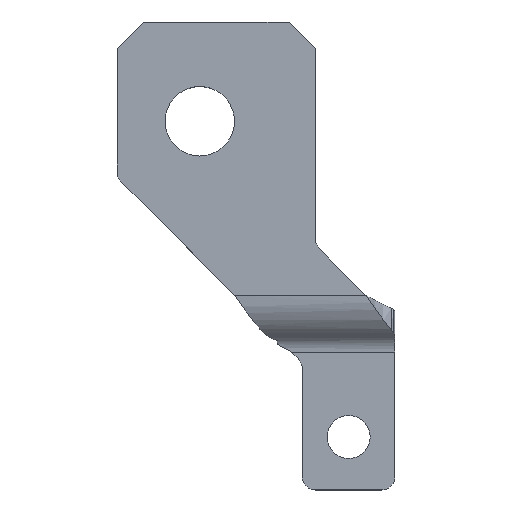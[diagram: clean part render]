
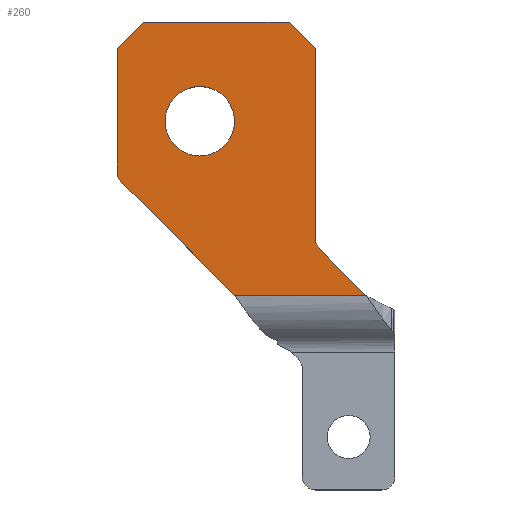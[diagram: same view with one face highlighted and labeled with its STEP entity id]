
A CAD part, top view. The second image highlights one B-rep face of the part: STEP entity #260.
In plain terms, the highlighted planar face has unit normal (0, 0, 1).
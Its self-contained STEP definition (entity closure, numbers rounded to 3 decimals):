
#10 = VERTEX_POINT ( 'NONE', #30 ) ;
#23 = CARTESIAN_POINT ( 'NONE',  ( 2., 38.184, 5. ) ) ;
#30 = CARTESIAN_POINT ( 'NONE',  ( -28., 49.213, 5. ) ) ;
#33 = CIRCLE ( 'NONE', #694, 2. ) ;
#44 = VERTEX_POINT ( 'NONE', #205 ) ;
#70 = CARTESIAN_POINT ( 'NONE',  ( -27.414, 47.799, 5. ) ) ;
#71 = EDGE_LOOP ( 'NONE', ( #488, #1100, #941, #348, #873, #668, #294, #644, #526, #1009 ) ) ;
#97 = DIRECTION ( 'NONE',  ( 0., -1., 0. ) ) ;
#107 = EDGE_CURVE ( 'NONE', #10, #1246, #33, .T. ) ;
#129 = CARTESIAN_POINT ( 'NONE',  ( -10.195, 30.58, 5. ) ) ;
#131 = LINE ( 'NONE', #596, #230 ) ;
#138 = AXIS2_PLACEMENT_3D ( 'NONE', #390, #1196, #675 ) ;
#153 = CARTESIAN_POINT ( 'NONE',  ( -28., 48.385, 5. ) ) ;
#193 = LINE ( 'NONE', #695, #347 ) ;
#199 = DIRECTION ( 'NONE',  ( 0., 0., -1. ) ) ;
#205 = CARTESIAN_POINT ( 'NONE',  ( -2., 71.884, 5. ) ) ;
#210 = ORIENTED_EDGE ( 'NONE', *, *, #758, .F. ) ;
#220 = DIRECTION ( 'NONE',  ( -1., 0., 0. ) ) ;
#230 = VECTOR ( 'NONE', #452, 1000. ) ;
#260 = ADVANCED_FACE ( 'NONE', ( #411, #1198 ), #521, .F. ) ;
#294 = ORIENTED_EDGE ( 'NONE', *, *, #769, .T. ) ;
#327 = CARTESIAN_POINT ( 'NONE',  ( -28., 71.884, 5. ) ) ;
#334 = DIRECTION ( 'NONE',  ( 0., 0., 1. ) ) ;
#338 = VERTEX_POINT ( 'NONE', #1202 ) ;
#347 = VECTOR ( 'NONE', #717, 1000. ) ;
#348 = ORIENTED_EDGE ( 'NONE', *, *, #503, .T. ) ;
#361 = EDGE_CURVE ( 'NONE', #1099, #338, #367, .T. ) ;
#362 = CARTESIAN_POINT ( 'NONE',  ( 2.586, 37.598, 5. ) ) ;
#367 = LINE ( 'NONE', #495, #746 ) ;
#379 = DIRECTION ( 'NONE',  ( 0.707, -0.707, 0. ) ) ;
#382 = EDGE_CURVE ( 'NONE', #998, #806, #193, .T. ) ;
#390 = CARTESIAN_POINT ( 'NONE',  ( -15.5, 56.884, 5. ) ) ;
#393 = EDGE_LOOP ( 'NONE', ( #210, #817 ) ) ;
#411 = FACE_BOUND ( 'NONE', #393, .T. ) ;
#426 = EDGE_CURVE ( 'NONE', #1034, #658, #1192, .T. ) ;
#440 = CARTESIAN_POINT ( 'NONE',  ( -26., 49.213, 5. ) ) ;
#444 = CARTESIAN_POINT ( 'NONE',  ( 0., 20.385, 5. ) ) ;
#452 = DIRECTION ( 'NONE',  ( -0.707, 0.707, 0. ) ) ;
#473 = EDGE_CURVE ( 'NONE', #338, #44, #131, .T. ) ;
#488 = ORIENTED_EDGE ( 'NONE', *, *, #1278, .T. ) ;
#495 = CARTESIAN_POINT ( 'NONE',  ( 2., 71.884, 5. ) ) ;
#503 = EDGE_CURVE ( 'NONE', #1033, #1099, #797, .T. ) ;
#521 = PLANE ( 'NONE',  #1191 ) ;
#526 = ORIENTED_EDGE ( 'NONE', *, *, #819, .T. ) ;
#527 = CARTESIAN_POINT ( 'NONE',  ( 2., 39.012, 5. ) ) ;
#576 = EDGE_CURVE ( 'NONE', #658, #1033, #1092, .T. ) ;
#596 = CARTESIAN_POINT ( 'NONE',  ( -2., 71.884, 5. ) ) ;
#605 = DIRECTION ( 'NONE',  ( 0., 0., 1. ) ) ;
#613 = VECTOR ( 'NONE', #379, 1000. ) ;
#618 = DIRECTION ( 'NONE',  ( 1., 0., 0. ) ) ;
#644 = ORIENTED_EDGE ( 'NONE', *, *, #382, .T. ) ;
#645 = CARTESIAN_POINT ( 'NONE',  ( -24., 71.884, 5. ) ) ;
#658 = VERTEX_POINT ( 'NONE', #801 ) ;
#668 = ORIENTED_EDGE ( 'NONE', *, *, #473, .T. ) ;
#675 = DIRECTION ( 'NONE',  ( 1., 0., 0. ) ) ;
#694 = AXIS2_PLACEMENT_3D ( 'NONE', #440, #334, #742 ) ;
#695 = CARTESIAN_POINT ( 'NONE',  ( -28., 67.884, 5. ) ) ;
#716 = LINE ( 'NONE', #327, #913 ) ;
#717 = DIRECTION ( 'NONE',  ( -0.707, -0.707, 0. ) ) ;
#742 = DIRECTION ( 'NONE',  ( -1., 0., 0. ) ) ;
#746 = VECTOR ( 'NONE', #1234, 1000. ) ;
#754 = LINE ( 'NONE', #153, #990 ) ;
#755 = DIRECTION ( 'NONE',  ( -0.707, 0.707, 0. ) ) ;
#758 = EDGE_CURVE ( 'NONE', #1052, #1228, #1248, .T. ) ;
#769 = EDGE_CURVE ( 'NONE', #44, #998, #716, .T. ) ;
#772 = CIRCLE ( 'NONE', #138, 5.25 ) ;
#778 = CARTESIAN_POINT ( 'NONE',  ( -28., 67.884, 5. ) ) ;
#782 = CARTESIAN_POINT ( 'NONE',  ( -15.5, 56.884, 5. ) ) ;
#797 = CIRCLE ( 'NONE', #898, 2. ) ;
#801 = CARTESIAN_POINT ( 'NONE',  ( 9.603, 30.58, 5. ) ) ;
#803 = CARTESIAN_POINT ( 'NONE',  ( 0., 70.7, 5. ) ) ;
#806 = VERTEX_POINT ( 'NONE', #778 ) ;
#817 = ORIENTED_EDGE ( 'NONE', *, *, #921, .F. ) ;
#819 = EDGE_CURVE ( 'NONE', #806, #10, #754, .T. ) ;
#821 = CARTESIAN_POINT ( 'NONE',  ( 0., 30.58, 5. ) ) ;
#873 = ORIENTED_EDGE ( 'NONE', *, *, #361, .T. ) ;
#884 = CARTESIAN_POINT ( 'NONE',  ( 4., 39.012, 5. ) ) ;
#886 = DIRECTION ( 'NONE',  ( 1., 0., 0. ) ) ;
#897 = LINE ( 'NONE', #444, #613 ) ;
#898 = AXIS2_PLACEMENT_3D ( 'NONE', #884, #945, #1174 ) ;
#913 = VECTOR ( 'NONE', #220, 1000. ) ;
#921 = EDGE_CURVE ( 'NONE', #1228, #1052, #772, .T. ) ;
#941 = ORIENTED_EDGE ( 'NONE', *, *, #576, .T. ) ;
#945 = DIRECTION ( 'NONE',  ( 0., 0., -1. ) ) ;
#990 = VECTOR ( 'NONE', #97, 1000. ) ;
#998 = VERTEX_POINT ( 'NONE', #645 ) ;
#1009 = ORIENTED_EDGE ( 'NONE', *, *, #107, .T. ) ;
#1033 = VERTEX_POINT ( 'NONE', #362 ) ;
#1034 = VERTEX_POINT ( 'NONE', #129 ) ;
#1052 = VERTEX_POINT ( 'NONE', #1118 ) ;
#1060 = VECTOR ( 'NONE', #618, 1000. ) ;
#1092 = LINE ( 'NONE', #23, #1167 ) ;
#1099 = VERTEX_POINT ( 'NONE', #527 ) ;
#1100 = ORIENTED_EDGE ( 'NONE', *, *, #426, .T. ) ;
#1118 = CARTESIAN_POINT ( 'NONE',  ( -20.75, 56.884, 5. ) ) ;
#1148 = AXIS2_PLACEMENT_3D ( 'NONE', #782, #605, #886 ) ;
#1167 = VECTOR ( 'NONE', #755, 1000. ) ;
#1174 = DIRECTION ( 'NONE',  ( -1., 0., 0. ) ) ;
#1180 = DIRECTION ( 'NONE',  ( -1., 0., 0. ) ) ;
#1191 = AXIS2_PLACEMENT_3D ( 'NONE', #803, #199, #1180 ) ;
#1192 = LINE ( 'NONE', #821, #1060 ) ;
#1196 = DIRECTION ( 'NONE',  ( 0., 0., 1. ) ) ;
#1198 = FACE_OUTER_BOUND ( 'NONE', #71, .T. ) ;
#1202 = CARTESIAN_POINT ( 'NONE',  ( 2., 67.884, 5. ) ) ;
#1225 = CARTESIAN_POINT ( 'NONE',  ( -10.25, 56.884, 5. ) ) ;
#1228 = VERTEX_POINT ( 'NONE', #1225 ) ;
#1234 = DIRECTION ( 'NONE',  ( 0., 1., 0. ) ) ;
#1246 = VERTEX_POINT ( 'NONE', #70 ) ;
#1248 = CIRCLE ( 'NONE', #1148, 5.25 ) ;
#1278 = EDGE_CURVE ( 'NONE', #1246, #1034, #897, .T. ) ;
